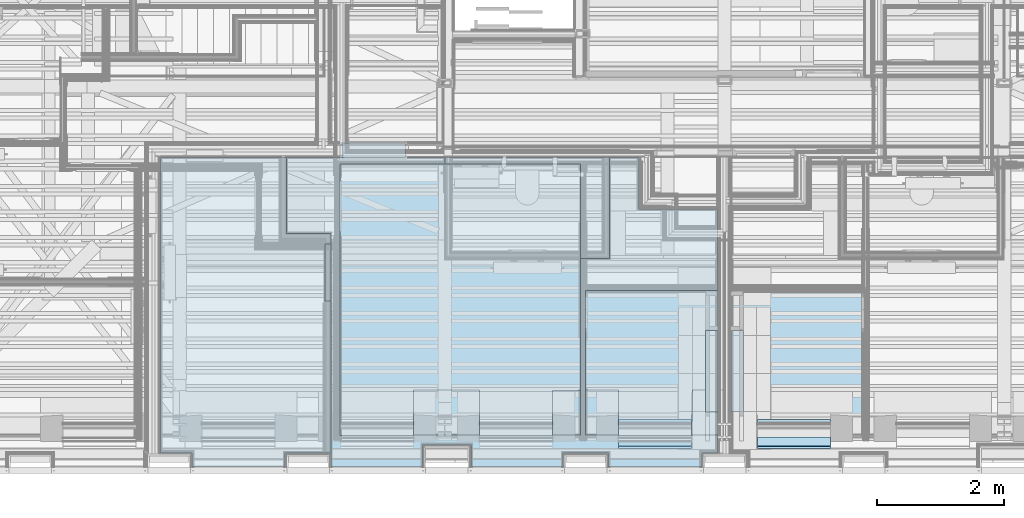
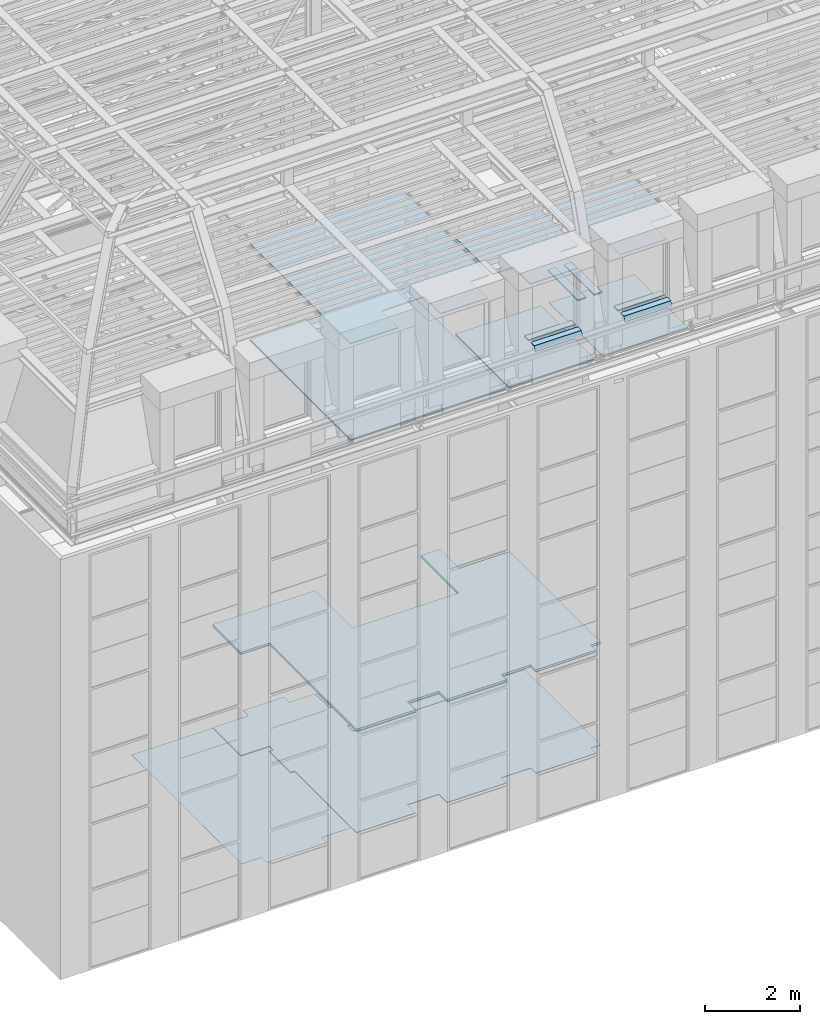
# One storey, part 84 of 183: 22 slabs.
"""IFC2X3 building model written with IfcOpenShell, lengths in metres."""

from ifc_helpers import new_model, entity, si_unit, converted_unit, derived_unit, money_unit, direction, frame, origin_with_axes, place, context, subcontext, project, spatial, faceted_brep, material, type_object, element, save


model = new_model("IFC2X3")

# Units and contexts
model_context = context("Model", 3, precision=1e-05, world=origin_with_axes(), true_north=direction((0.0, 1.0)))
body_context = subcontext(model_context, "Body", "Model", "MODEL_VIEW", scale=1.0)
ifc_project = project(units=[si_unit("LENGTHUNIT", "METRE"), si_unit("AREAUNIT", "SQUARE_METRE"), si_unit("VOLUMEUNIT", "CUBIC_METRE"), si_unit("ABSORBEDDOSEUNIT", "GRAY"), si_unit("AMOUNTOFSUBSTANCEUNIT", "MOLE"), si_unit("DOSEEQUIVALENTUNIT", "SIEVERT"), si_unit("ELECTRICCAPACITANCEUNIT", "FARAD"), si_unit("ELECTRICCHARGEUNIT", "COULOMB"), si_unit("ELECTRICCONDUCTANCEUNIT", "SIEMENS"), si_unit("ELECTRICCURRENTUNIT", "AMPERE"), si_unit("ELECTRICRESISTANCEUNIT", "OHM"), si_unit("ELECTRICVOLTAGEUNIT", "VOLT"), si_unit("ENERGYUNIT", "JOULE"), si_unit("FORCEUNIT", "NEWTON"), si_unit("FREQUENCYUNIT", "HERTZ"), si_unit("ILLUMINANCEUNIT", "LUX"), si_unit("INDUCTANCEUNIT", "HENRY"), si_unit("LUMINOUSFLUXUNIT", "LUMEN"), si_unit("LUMINOUSINTENSITYUNIT", "CANDELA"), si_unit("MAGNETICFLUXDENSITYUNIT", "TESLA"), si_unit("MAGNETICFLUXUNIT", "WEBER"), si_unit("MASSUNIT", "GRAM"), converted_unit("PLANEANGLEUNIT", "degree", entity("IfcReal", 0.0174532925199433), si_unit("PLANEANGLEUNIT", "RADIAN"), dimensions=[0, 0, 0, 0, 0, 0, 0]), si_unit("POWERUNIT", "WATT"), si_unit("PRESSUREUNIT", "PASCAL"), si_unit("RADIOACTIVITYUNIT", "BECQUEREL"), si_unit("SOLIDANGLEUNIT", "STERADIAN"), si_unit("THERMODYNAMICTEMPERATUREUNIT", "KELVIN"), si_unit("TIMEUNIT", "SECOND"), derived_unit("ACCELERATIONUNIT", [(si_unit("LENGTHUNIT", "METRE"), 1), (si_unit("TIMEUNIT", "SECOND"), -2)]), derived_unit("ANGULARVELOCITYUNIT", [(converted_unit("PLANEANGLEUNIT", "degree", entity("IfcReal", 0.0174532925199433), si_unit("PLANEANGLEUNIT", "RADIAN"), dimensions=[0, 0, 0, 0, 0, 0, 0]), 1), (si_unit("TIMEUNIT", "SECOND"), -1)]), derived_unit("CURVATUREUNIT", [(converted_unit("PLANEANGLEUNIT", "degree", entity("IfcReal", 0.0174532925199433), si_unit("PLANEANGLEUNIT", "RADIAN"), dimensions=[0, 0, 0, 0, 0, 0, 0]), 1), (si_unit("LENGTHUNIT", "METRE"), -1)]), derived_unit("DYNAMICVISCOSITYUNIT", [(si_unit("PRESSUREUNIT", "PASCAL"), 1), (si_unit("TIMEUNIT", "SECOND"), 1)]), derived_unit("HEATFLUXDENSITYUNIT", [(si_unit("POWERUNIT", "WATT"), 1), (si_unit("LENGTHUNIT", "METRE"), -2)]), derived_unit("HEATINGVALUEUNIT", [(si_unit("ENERGYUNIT", "JOULE"), 1), (si_unit("MASSUNIT", "GRAM"), -1)]), derived_unit("INTEGERCOUNTRATEUNIT", [(si_unit("TIMEUNIT", "SECOND"), -1)]), derived_unit("IONCONCENTRATIONUNIT", [(si_unit("MASSUNIT", "GRAM"), 1), (si_unit("VOLUMEUNIT", "CUBIC_METRE"), -1)]), derived_unit("ISOTHERMALMOISTURECAPACITYUNIT", [(si_unit("VOLUMEUNIT", "CUBIC_METRE"), 1), (si_unit("MASSUNIT", "GRAM"), -1)]), derived_unit("KINEMATICVISCOSITYUNIT", [(si_unit("AREAUNIT", "SQUARE_METRE"), 1), (si_unit("TIMEUNIT", "SECOND"), -1)]), derived_unit("LINEARFORCEUNIT", [(si_unit("FORCEUNIT", "NEWTON"), 1), (si_unit("LENGTHUNIT", "METRE"), -1)]), derived_unit("LINEARMOMENTUNIT", [(si_unit("FORCEUNIT", "NEWTON"), 1), (si_unit("LENGTHUNIT", "METRE"), -1)]), derived_unit("LINEARSTIFFNESSUNIT", [(si_unit("FORCEUNIT", "NEWTON"), 1), (si_unit("LENGTHUNIT", "METRE"), -1)]), derived_unit("LINEARVELOCITYUNIT", [(si_unit("LENGTHUNIT", "METRE"), 1), (si_unit("TIMEUNIT", "SECOND"), -1)]), derived_unit("LUMINOUSINTENSITYDISTRIBUTIONUNIT", [(si_unit("LUMINOUSINTENSITYUNIT", "CANDELA"), 1), (si_unit("LUMINOUSFLUXUNIT", "LUMEN"), -1)]), derived_unit("MASSDENSITYUNIT", [(si_unit("MASSUNIT", "GRAM"), 1), (si_unit("VOLUMEUNIT", "CUBIC_METRE"), -1)]), derived_unit("MASSFLOWRATEUNIT", [(si_unit("MASSUNIT", "GRAM"), 1), (si_unit("TIMEUNIT", "SECOND"), -1)]), derived_unit("MASSPERLENGTHUNIT", [(si_unit("MASSUNIT", "GRAM"), 1), (si_unit("LENGTHUNIT", "METRE"), -1)]), derived_unit("MODULUSOFELASTICITYUNIT", [(si_unit("FORCEUNIT", "NEWTON"), 1), (si_unit("AREAUNIT", "SQUARE_METRE"), -1)]), derived_unit("MODULUSOFLINEARSUBGRADEREACTIONUNIT", [(si_unit("FORCEUNIT", "NEWTON"), 1), (si_unit("LENGTHUNIT", "METRE"), -2)]), derived_unit("MODULUSOFROTATIONALSUBGRADEREACTIONUNIT", [(si_unit("FORCEUNIT", "NEWTON"), 1), (si_unit("LENGTHUNIT", "METRE"), 1)]), derived_unit("MODULUSOFSUBGRADEREACTIONUNIT", [(si_unit("FORCEUNIT", "NEWTON"), 1), (si_unit("VOLUMEUNIT", "CUBIC_METRE"), -1)]), derived_unit("MOISTUREDIFFUSIVITYUNIT", [(si_unit("VOLUMEUNIT", "CUBIC_METRE"), 1), (si_unit("TIMEUNIT", "SECOND"), -1)]), derived_unit("MOLECULARWEIGHTUNIT", [(si_unit("MASSUNIT", "GRAM"), 1), (si_unit("AMOUNTOFSUBSTANCEUNIT", "MOLE"), -1)]), derived_unit("PLANARFORCEUNIT", [(si_unit("FORCEUNIT", "NEWTON"), 1), (si_unit("LENGTHUNIT", "METRE"), -2)]), derived_unit("ROTATIONALFREQUENCYUNIT", [(si_unit("TIMEUNIT", "SECOND"), -1)]), derived_unit("ROTATIONALMASSUNIT", [(si_unit("MASSUNIT", "GRAM"), 1), (si_unit("LENGTHUNIT", "METRE"), 2)]), derived_unit("ROTATIONALSTIFFNESSUNIT", [(si_unit("FORCEUNIT", "NEWTON"), 1), (si_unit("LENGTHUNIT", "METRE"), 1), (converted_unit("PLANEANGLEUNIT", "degree", entity("IfcReal", 0.0174532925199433), si_unit("PLANEANGLEUNIT", "RADIAN"), dimensions=[0, 0, 0, 0, 0, 0, 0]), -1)]), derived_unit("SECTIONAREAINTEGRALUNIT", [(si_unit("LENGTHUNIT", "METRE"), 5)]), derived_unit("SECTIONMODULUSUNIT", [(si_unit("LENGTHUNIT", "METRE"), 3)]), derived_unit("SHEARMODULUSUNIT", [(si_unit("FORCEUNIT", "NEWTON"), 1), (si_unit("AREAUNIT", "SQUARE_METRE"), -1)]), derived_unit("SOUNDPOWERUNIT", [(si_unit("ENERGYUNIT", "JOULE"), 1), (si_unit("TIMEUNIT", "SECOND"), -1)]), derived_unit("SPECIFICHEATCAPACITYUNIT", [(si_unit("FORCEUNIT", "NEWTON"), 1), (si_unit("MASSUNIT", "GRAM"), -1), (si_unit("THERMODYNAMICTEMPERATUREUNIT", "KELVIN"), -1)]), derived_unit("TEMPERATUREGRADIENTUNIT", [(si_unit("THERMODYNAMICTEMPERATUREUNIT", "KELVIN"), 1), (si_unit("LENGTHUNIT", "METRE"), -1)]), derived_unit("THERMALADMITTANCEUNIT", [(si_unit("POWERUNIT", "WATT"), 1), (si_unit("AREAUNIT", "SQUARE_METRE"), -1), (si_unit("THERMODYNAMICTEMPERATUREUNIT", "KELVIN"), -1)]), derived_unit("THERMALCONDUCTANCEUNIT", [(si_unit("POWERUNIT", "WATT"), 1), (si_unit("LENGTHUNIT", "METRE"), -1), (si_unit("THERMODYNAMICTEMPERATUREUNIT", "KELVIN"), -1)]), derived_unit("THERMALEXPANSIONCOEFFICIENTUNIT", [(si_unit("THERMODYNAMICTEMPERATUREUNIT", "KELVIN"), -1)]), derived_unit("THERMALRESISTANCEUNIT", [(si_unit("AREAUNIT", "SQUARE_METRE"), 1), (si_unit("POWERUNIT", "WATT"), -1)]), derived_unit("THERMALTRANSMITTANCEUNIT", [(si_unit("POWERUNIT", "WATT"), 1), (si_unit("AREAUNIT", "SQUARE_METRE"), -1), (si_unit("THERMODYNAMICTEMPERATUREUNIT", "KELVIN"), -1)]), derived_unit("TORQUEUNIT", [(si_unit("FORCEUNIT", "NEWTON"), 1), (si_unit("LENGTHUNIT", "METRE"), 1)]), derived_unit("VAPORPERMEABILITYUNIT", [(si_unit("MASSUNIT", "GRAM"), 1), (si_unit("TIMEUNIT", "SECOND"), -1)]), derived_unit("VOLUMETRICFLOWRATEUNIT", [(si_unit("VOLUMEUNIT", "CUBIC_METRE"), 1), (si_unit("TIMEUNIT", "SECOND"), -1)]), derived_unit("WARPINGCONSTANTUNIT", [(si_unit("LENGTHUNIT", "METRE"), 6)]), derived_unit("WARPINGMOMENTUNIT", [(si_unit("FORCEUNIT", "NEWTON"), 1), (si_unit("LENGTHUNIT", "METRE"), 2)]), money_unit("GBP")], contexts=[model_context])

# Site, building, storey
site_placement = place(None, origin_with_axes())
site = spatial("IfcSite", under=ifc_project, at=site_placement, Name="Site", CompositionType="ELEMENT")
building_placement = place(site_placement, origin_with_axes())
building = spatial("IfcBuilding", under=site, at=building_placement, Name="Building01", CompositionType="ELEMENT")
storey_placement = place(building_placement, frame((0.0, 0.0, 5.15), z_axis=(0.0, 0.0, 1.0), x_axis=(1.0, 0.0, 0.0)))
storey = spatial("IfcBuildingStorey", under=building, at=storey_placement, Name="1F", CompositionType="ELEMENT", Elevation=5.15)

# Slabs
ifc_material_1 = material(Name="A_BSUK_ExpandedPolystyreneBoards")
slab_type_1 = type_object("IfcSlabType", Name="A-FloorsSlabs A_BSUK_Slabs", PredefinedType="FLOOR")
placement = place(storey_placement, frame((0.0, 0.0, -5.15), z_axis=(0.0, 0.0, 1.0), x_axis=(1.0, 0.0, 0.0)))
element("IfcSlab", 1, at=placement, inside=storey, type_object=slab_type_1, material=ifc_material_1, Name="A-FloorsSlabs A_BSUK_Slabs", ObjectType="CompoundSlabLeaf", context=body_context, shape_type="Brep", body=[
    faceted_brep([(12.15, 4.98, 5.15), (12.15, 4.98, 5.153), (12.15, 4.164428, 5.153), (12.15, 4.164428, 5.15), (9.0, 4.98, 5.15), (9.0, 4.98, 5.153), (8.4725, 4.98, 5.15), (8.4725, 4.98, 5.153), (8.4725, 5.205, 5.15), (8.4725, 5.205, 5.153), (7.4725, 5.205, 5.15), (7.4725, 5.205, 5.153), (7.4725, 4.98, 5.15), (7.4725, 4.98, 5.153), (4.61, 4.98, 5.15), (4.61, 4.98, 5.153), (4.61, 0.318, 5.15), (4.61, 0.318, 5.153), (5.105, 0.318, 5.15), (5.105, 0.318, 5.153), (5.105, 0.1, 5.15), (5.105, 0.1, 5.153), (6.575, 0.1, 5.15), (6.575, 0.1, 5.153), (6.575, 0.318, 5.15), (6.575, 0.318, 5.153), (7.295, 0.318, 5.15), (7.295, 0.318, 5.153), (7.295, 0.1, 5.15), (7.295, 0.1, 5.153), (8.742, 0.1, 5.15), (8.742, 0.1, 5.153), (8.742, 0.448, 5.15), (8.742, 0.448, 5.153), (9.508, 0.448, 5.15), (9.508, 0.448, 5.153), (9.508, 0.1, 5.15), (9.508, 0.1, 5.153), (10.955, 0.1, 5.15), (10.955, 0.1, 5.153), (10.955, 0.318, 5.15), (10.955, 0.318, 5.153), (11.675, 0.318, 5.15), (11.675, 0.318, 5.153), (11.675, 0.1, 5.15), (11.675, 0.1, 5.153), (13.145, 0.1, 5.15), (13.145, 0.1, 5.153), (13.145, 0.318, 5.15), (13.145, 0.318, 5.153), (13.3875, 0.318, 5.15), (13.3875, 0.318, 5.153), (13.3875, 4.164428, 5.15), (13.3875, 4.164428, 5.153)], [[[0, 1, 2, 3]], [[4, 5, 1, 0]], [[6, 7, 5, 4]], [[8, 9, 7, 6]], [[10, 11, 9, 8]], [[12, 13, 11, 10]], [[14, 15, 13, 12]], [[16, 17, 15, 14]], [[18, 19, 17, 16]], [[20, 21, 19, 18]], [[22, 23, 21, 20]], [[24, 25, 23, 22]], [[26, 27, 25, 24]], [[28, 29, 27, 26]], [[30, 31, 29, 28]], [[32, 33, 31, 30]], [[34, 35, 33, 32]], [[36, 37, 35, 34]], [[38, 39, 37, 36]], [[40, 41, 39, 38]], [[42, 43, 41, 40]], [[44, 45, 43, 42]], [[46, 47, 45, 44]], [[48, 49, 47, 46]], [[50, 51, 49, 48]], [[52, 53, 51, 50]], [[3, 2, 53, 52]], [[1, 5, 7, 9, 11, 13, 15, 17, 19, 21, 23, 25, 27, 29, 31, 33, 35, 37, 39, 41, 43, 45, 47, 49, 51, 53, 2]], [[3, 52, 50, 48, 46, 44, 42, 40, 38, 36, 34, 32, 30, 28, 26, 24, 22, 20, 18, 16, 14, 12, 10, 8, 6, 4, 0]]]),
])
ifc_material_2 = material(Name="A_BSUK_Parquet_Floor")
element("IfcSlab", 2, at=placement, inside=storey, type_object=slab_type_1, material=ifc_material_2, Name="A-FloorsSlabs A_BSUK_Slabs", ObjectType="CompoundSlabLeaf", context=body_context, shape_type="Brep", body=[
    faceted_brep([(8.4725, 5.205, 5.153), (8.4725, 5.205, 5.165), (8.4725, 4.98, 5.165), (8.4725, 4.98, 5.153), (7.4725, 5.205, 5.153), (7.4725, 5.205, 5.165), (7.4725, 4.98, 5.153), (7.4725, 4.98, 5.165), (6.595, 4.98, 5.153), (6.595, 4.98, 5.165), (6.595, 3.78, 5.153), (6.595, 3.78, 5.165), (7.295, 3.78, 5.153), (7.295, 3.78, 5.165), (7.295, 3.616, 5.153), (7.295, 3.616, 5.165), (7.2, 3.616, 5.153), (7.2, 3.616, 5.165), (7.2, 2.716, 5.153), (7.2, 2.716, 5.165), (7.295, 2.716, 5.153), (7.295, 2.716, 5.165), (7.295, 0.1, 5.153), (7.295, 0.1, 5.165), (8.742, 0.1, 5.153), (8.742, 0.1, 5.165), (8.742, 0.448, 5.153), (8.742, 0.448, 5.165), (9.508, 0.448, 5.153), (9.508, 0.448, 5.165), (9.508, 0.1, 5.153), (9.508, 0.1, 5.165), (10.955, 0.1, 5.153), (10.955, 0.1, 5.165), (10.955, 0.318, 5.153), (10.955, 0.318, 5.165), (11.675, 0.318, 5.153), (11.675, 0.318, 5.165), (11.675, 0.1, 5.153), (11.675, 0.1, 5.165), (13.145, 0.1, 5.153), (13.145, 0.1, 5.165), (13.145, 0.318, 5.153), (13.145, 0.318, 5.165), (13.3875, 0.318, 5.153), (13.3875, 0.318, 5.165), (13.3875, 4.164428, 5.153), (13.3875, 4.164428, 5.165), (12.15, 4.164428, 5.153), (12.15, 4.164428, 5.165), (12.15, 4.98, 5.153), (12.15, 4.98, 5.165), (11.687536, 4.98, 5.153), (11.687536, 4.98, 5.165), (11.687536, 3.385, 5.153), (11.687536, 3.385, 5.165), (9.097536, 3.385, 5.153), (9.097536, 3.385, 5.165), (9.097536, 3.613781, 5.153), (9.097536, 3.613781, 5.165), (9.192536, 3.613781, 5.153), (9.192536, 3.613781, 5.165), (9.192536, 4.363781, 5.153), (9.192536, 4.363781, 5.165), (9.097536, 4.363781, 5.153), (9.097536, 4.363781, 5.165), (9.097536, 4.98, 5.153), (9.097536, 4.98, 5.165)], [[[0, 1, 2, 3]], [[4, 5, 1, 0]], [[6, 7, 5, 4]], [[8, 9, 7, 6]], [[10, 11, 9, 8]], [[12, 13, 11, 10]], [[14, 15, 13, 12]], [[16, 17, 15, 14]], [[18, 19, 17, 16]], [[20, 21, 19, 18]], [[22, 23, 21, 20]], [[24, 25, 23, 22]], [[26, 27, 25, 24]], [[28, 29, 27, 26]], [[30, 31, 29, 28]], [[32, 33, 31, 30]], [[34, 35, 33, 32]], [[36, 37, 35, 34]], [[38, 39, 37, 36]], [[40, 41, 39, 38]], [[42, 43, 41, 40]], [[44, 45, 43, 42]], [[46, 47, 45, 44]], [[48, 49, 47, 46]], [[50, 51, 49, 48]], [[52, 53, 51, 50]], [[54, 55, 53, 52]], [[56, 57, 55, 54]], [[58, 59, 57, 56]], [[60, 61, 59, 58]], [[62, 63, 61, 60]], [[64, 65, 63, 62]], [[66, 67, 65, 64]], [[3, 2, 67, 66]], [[1, 5, 7, 9, 11, 13, 15, 17, 19, 21, 23, 25, 27, 29, 31, 33, 35, 37, 39, 41, 43, 45, 47, 49, 51, 53, 55, 57, 59, 61, 63, 65, 67, 2]], [[3, 66, 64, 62, 60, 58, 56, 54, 52, 50, 48, 46, 44, 42, 40, 38, 36, 34, 32, 30, 28, 26, 24, 22, 20, 18, 16, 14, 12, 10, 8, 6, 4, 0]]]),
])
ifc_material_3 = material(Name="A_BSUK_CeilingSoffitFinishes_Suspended")
element("IfcSlab", 3, at=placement, inside=storey, type_object=slab_type_1, material=ifc_material_3, Name="A-FloorsSlabs A_BSUK_Slabs", ObjectType="CompoundSlabLeaf", context=body_context, shape_type="Brep", body=[
    faceted_brep([(8.6725, 4.98, 7.765), (8.6725, 4.98, 7.78), (9.097536, 4.98, 7.78), (9.097536, 4.98, 7.765), (7.6725, 4.98, 7.765), (7.6725, 4.98, 7.78), (6.595, 4.98, 7.765), (6.595, 4.98, 7.78), (6.595, 3.78, 7.765), (6.595, 3.78, 7.78), (7.295, 3.78, 7.765), (7.295, 3.78, 7.78), (7.295, 3.151781, 7.765), (7.295, 3.151781, 7.78), (7.295, 0.1, 7.765), (7.295, 0.1, 7.78), (8.742, 0.1, 7.765), (8.742, 0.1, 7.78), (8.742, 0.448, 7.765), (8.742, 0.448, 7.78), (9.508, 0.448, 7.765), (9.508, 0.448, 7.78), (9.508, 0.1, 7.765), (9.508, 0.1, 7.78), (10.955, 0.1, 7.765), (10.955, 0.1, 7.78), (10.955, 0.318, 7.765), (10.955, 0.318, 7.78), (11.675, 0.318, 7.765), (11.675, 0.318, 7.78), (11.675, 0.1, 7.765), (11.675, 0.1, 7.78), (13.145, 0.1, 7.765), (13.145, 0.1, 7.78), (13.145, 0.318, 7.765), (13.145, 0.318, 7.78), (13.3875, 0.318, 7.765), (13.3875, 0.318, 7.78), (13.3875, 4.164428, 7.765), (13.3875, 4.164428, 7.78), (12.15, 4.164428, 7.765), (12.15, 4.164428, 7.78), (12.15, 4.98, 7.765), (12.15, 4.98, 7.78), (11.687536, 4.98, 7.765), (11.687536, 4.98, 7.78), (11.687536, 3.385, 7.765), (11.687536, 3.385, 7.78), (9.097536, 3.385, 7.765), (9.097536, 3.385, 7.78)], [[[0, 1, 2, 3]], [[4, 5, 1, 0]], [[6, 7, 5, 4]], [[8, 9, 7, 6]], [[10, 11, 9, 8]], [[12, 13, 11, 10]], [[14, 15, 13, 12]], [[16, 17, 15, 14]], [[18, 19, 17, 16]], [[20, 21, 19, 18]], [[22, 23, 21, 20]], [[24, 25, 23, 22]], [[26, 27, 25, 24]], [[28, 29, 27, 26]], [[30, 31, 29, 28]], [[32, 33, 31, 30]], [[34, 35, 33, 32]], [[36, 37, 35, 34]], [[38, 39, 37, 36]], [[40, 41, 39, 38]], [[42, 43, 41, 40]], [[44, 45, 43, 42]], [[46, 47, 45, 44]], [[48, 49, 47, 46]], [[3, 2, 49, 48]], [[1, 5, 7, 9, 11, 13, 15, 17, 19, 21, 23, 25, 27, 29, 31, 33, 35, 37, 39, 41, 43, 45, 47, 49, 2]], [[3, 48, 46, 44, 42, 40, 38, 36, 34, 32, 30, 28, 26, 24, 22, 20, 18, 16, 14, 12, 10, 8, 6, 4, 0]]]),
])
ifc_material_4 = material(Name="A_BSUK_Ceramic_WallTiles")
slab_4_placement = place(storey_placement, frame((13.799998, 2.249668, 11.155), z_axis=(0.0, 0.0, 1.0), x_axis=(1.0, 0.0, 0.0)))
element("IfcSlab", 4, at=slab_4_placement, inside=storey, type_object=slab_type_1, material=ifc_material_4, Name="A-FloorsSlabs A_BSUK_Slabs", ObjectType="A-FloorsSlabs A_BSUK_Slabs", context=body_context, shape_type="Brep", body=[
    faceted_brep([(-0.199998, 0.0, 0.0), (-0.199998, 0.0, 0.025), (0.0, 0.0, 0.025), (0.0, 0.0, 0.0), (0.0, -1.279046, 0.025), (0.0, -1.279046, 0.0), (-0.199998, -1.279046, 0.025), (-0.199998, -1.279046, 0.0)], [[[0, 1, 2, 3]], [[3, 2, 4, 5]], [[5, 4, 6, 7]], [[7, 6, 1, 0]], [[1, 6, 4, 2]], [[3, 5, 7, 0]]]),
])
slab_5_placement = place(storey_placement, frame((13.200002, 2.249668, 11.155), z_axis=(0.0, 0.0, 1.0), x_axis=(1.0, 0.0, 0.0)))
element("IfcSlab", 5, at=slab_5_placement, inside=storey, type_object=slab_type_1, material=ifc_material_4, Name="A-FloorsSlabs A_BSUK_Slabs", ObjectType="A-FloorsSlabs A_BSUK_Slabs", context=body_context, shape_type="Brep", body=[
    faceted_brep([(0.0, 0.0, 0.0), (0.0, 0.0, 0.025), (0.199998, 0.0, 0.025), (0.199998, 0.0, 0.0), (0.0, -1.279046, 0.0), (0.0, -1.279046, 0.025), (0.199998, -1.279046, 0.0), (0.199998, -1.279046, 0.025)], [[[0, 1, 2, 3]], [[4, 5, 1, 0]], [[6, 7, 5, 4]], [[3, 2, 7, 6]], [[1, 5, 7, 2]], [[3, 6, 4, 0]]]),
])
ifc_material_5 = material(Name="A_BSUK_Timber_Miscellaneous")
slab_6_placement = place(storey_placement, frame((12.980024, 0.575339, 10.78), z_axis=(0.0, 0.0, 1.0), x_axis=(-1.0, 0.0, 0.0)))
element("IfcSlab", 6, at=slab_6_placement, inside=storey, type_object=slab_type_1, material=ifc_material_5, Name="A-FloorsSlabs A_BSUK_Slabs", ObjectType="A-FloorsSlabs A_BSUK_Slabs", context=body_context, shape_type="Brep", body=[
    faceted_brep([(0.0, 0.0, 0.0), (1.15, 0.0, 0.0), (1.15, 0.0, 0.022498), (0.0, 0.0, 0.022498), (1.15, 0.142391, 0.017505), (0.0, 0.142391, 0.017505), (1.15, 0.148079, 0.0), (0.0, 0.148079, 0.0)], [[[0, 1, 2, 3]], [[3, 2, 4, 5]], [[5, 4, 6, 7]], [[7, 6, 1, 0]], [[1, 6, 4, 2]], [[3, 5, 7, 0]]]),
])
ifc_material_6 = material(Name="A_BSUK_Steel_Miscellaneous")
slab_7_placement = place(storey_placement, frame((12.980024, 0.575339, 10.802498), z_axis=(0.0, 0.0, 1.0), x_axis=(-1.0, 0.0, 0.0)))
element("IfcSlab", 7, at=slab_7_placement, inside=storey, type_object=slab_type_1, material=ifc_material_6, Name="A-FloorsSlabs A_BSUK_Slabs", ObjectType="A-FloorsSlabs A_BSUK_Slabs", context=body_context, shape_type="Brep", body=[
    faceted_brep([(0.0, 0.0, 0.0), (1.15, 0.0, 0.0), (1.15, 0.0, 0.007502), (0.0, 0.0, 0.007502), (1.15, 0.001, 0.007502), (0.0, 0.001, 0.007502), (1.15, 0.0025, 0.002414), (0.0, 0.0025, 0.002414), (1.15, 0.144228, -0.002556), (0.0, 0.144228, -0.002556), (1.15, 0.183199, -0.122498), (0.0, 0.183199, -0.122498), (1.15, 0.183199, -0.127498), (0.0, 0.183199, -0.127498), (1.15, 0.180699, -0.127498), (0.0, 0.180699, -0.127498), (1.15, 0.180699, -0.122894), (0.0, 0.180699, -0.122894), (1.15, 0.142391, -0.004993), (0.0, 0.142391, -0.004993)], [[[0, 1, 2, 3]], [[3, 2, 4, 5]], [[5, 4, 6, 7]], [[7, 6, 8, 9]], [[9, 8, 10, 11]], [[11, 10, 12, 13]], [[13, 12, 14, 15]], [[15, 14, 16, 17]], [[17, 16, 18, 19]], [[19, 18, 1, 0]], [[1, 18, 16, 14, 12, 10, 8, 6, 4, 2]], [[3, 5, 7, 9, 11, 13, 15, 17, 19, 0]]]),
])
slab_8_placement = place(storey_placement, frame((15.170024, 0.575339, 10.78), z_axis=(0.0, 0.0, 1.0), x_axis=(-1.0, 0.0, 0.0)))
element("IfcSlab", 8, at=slab_8_placement, inside=storey, type_object=slab_type_1, material=ifc_material_5, Name="A-FloorsSlabs A_BSUK_Slabs", ObjectType="A-FloorsSlabs A_BSUK_Slabs", context=body_context, shape_type="Brep", body=[
    faceted_brep([(0.0, 0.0, 0.0), (1.15, 0.0, 0.0), (1.15, 0.0, 0.022498), (0.0, 0.0, 0.022498), (1.15, 0.142391, 0.017505), (0.0, 0.142391, 0.017505), (1.15, 0.148079, 0.0), (0.0, 0.148079, 0.0)], [[[0, 1, 2, 3]], [[3, 2, 4, 5]], [[5, 4, 6, 7]], [[7, 6, 1, 0]], [[1, 6, 4, 2]], [[3, 5, 7, 0]]]),
])
slab_9_placement = place(storey_placement, frame((15.170024, 0.575339, 10.802498), z_axis=(0.0, 0.0, 1.0), x_axis=(-1.0, 0.0, 0.0)))
element("IfcSlab", 9, at=slab_9_placement, inside=storey, type_object=slab_type_1, material=ifc_material_6, Name="A-FloorsSlabs A_BSUK_Slabs", ObjectType="A-FloorsSlabs A_BSUK_Slabs", context=body_context, shape_type="Brep", body=[
    faceted_brep([(0.0, 0.0, 0.0), (1.15, 0.0, 0.0), (1.15, 0.0, 0.007502), (0.0, 0.0, 0.007502), (1.15, 0.001, 0.007502), (0.0, 0.001, 0.007502), (1.15, 0.0025, 0.002414), (0.0, 0.0025, 0.002414), (1.15, 0.144228, -0.002556), (0.0, 0.144228, -0.002556), (1.15, 0.183199, -0.122498), (0.0, 0.183199, -0.122498), (1.15, 0.183199, -0.127498), (0.0, 0.183199, -0.127498), (1.15, 0.180699, -0.127498), (0.0, 0.180699, -0.127498), (1.15, 0.180699, -0.122894), (0.0, 0.180699, -0.122894), (1.15, 0.142391, -0.004993), (0.0, 0.142391, -0.004993)], [[[0, 1, 2, 3]], [[3, 2, 4, 5]], [[5, 4, 6, 7]], [[7, 6, 8, 9]], [[9, 8, 10, 11]], [[11, 10, 12, 13]], [[13, 12, 14, 15]], [[15, 14, 16, 17]], [[17, 16, 18, 19]], [[19, 18, 1, 0]], [[1, 18, 16, 14, 12, 10, 8, 6, 4, 2]], [[3, 5, 7, 9, 11, 13, 15, 17, 19, 0]]]),
])
element("IfcSlab", 10, at=placement, inside=storey, type_object=slab_type_1, material=ifc_material_3, Name="A-FloorsSlabs A_BSUK_Slabs", ObjectType="CompoundSlabLeaf", context=body_context, shape_type="Brep", body=[
    faceted_brep([(7.439998, 4.88, 17.423), (7.439998, 4.88, 17.438), (11.23, 4.88, 17.438), (11.23, 4.88, 17.423), (7.439911, 0.599916, 17.423), (7.439911, 0.599916, 17.438), (8.599976, 0.599939, 17.423), (8.599976, 0.599939, 17.438), (8.599976, 1.312402, 17.423), (8.599976, 1.312402, 17.438), (9.640024, 1.312402, 17.423), (9.640024, 1.312402, 17.438), (9.640024, 0.599939, 17.423), (9.640024, 0.599939, 17.438), (10.790024, 0.599939, 17.423), (10.790024, 0.599939, 17.438), (10.790024, 1.31, 17.423), (10.790024, 1.31, 17.438), (11.23, 1.31, 17.423), (11.23, 1.31, 17.438)], [[[0, 1, 2, 3]], [[4, 5, 1, 0]], [[6, 7, 5, 4]], [[8, 9, 7, 6]], [[10, 11, 9, 8]], [[12, 13, 11, 10]], [[14, 15, 13, 12]], [[16, 17, 15, 14]], [[18, 19, 17, 16]], [[3, 2, 19, 18]], [[1, 5, 7, 9, 11, 13, 15, 17, 19, 2]], [[3, 18, 16, 14, 12, 10, 8, 6, 4, 0]]]),
])
element("IfcSlab", 11, at=placement, inside=storey, type_object=slab_type_1, material=ifc_material_3, Name="A-FloorsSlabs A_BSUK_Slabs", ObjectType="CompoundSlabLeaf", context=body_context, shape_type="Brep", body=[
    faceted_brep([(11.31, 1.312402, 17.423), (11.31, 1.312402, 17.438), (11.31, 2.884761, 17.438), (11.31, 2.884761, 17.423), (11.830024, 1.312402, 17.423), (11.830024, 1.312402, 17.438), (11.830024, 0.599939, 17.423), (11.830024, 0.599939, 17.438), (12.979976, 0.599939, 17.423), (12.979976, 0.599939, 17.438), (12.992194, 1.312402, 17.423), (12.992194, 1.312402, 17.438), (13.4, 1.312402, 17.423), (13.4, 1.312402, 17.438), (13.4, 2.884761, 17.423), (13.4, 2.884761, 17.438)], [[[0, 1, 2, 3]], [[4, 5, 1, 0]], [[6, 7, 5, 4]], [[8, 9, 7, 6]], [[10, 11, 9, 8]], [[12, 13, 11, 10]], [[14, 15, 13, 12]], [[3, 2, 15, 14]], [[1, 5, 7, 9, 11, 13, 15, 2]], [[3, 14, 12, 10, 8, 6, 4, 0]]]),
])
element("IfcSlab", 12, at=placement, inside=storey, type_object=slab_type_1, material=ifc_material_3, Name="A-FloorsSlabs A_BSUK_Slabs", ObjectType="CompoundSlabLeaf", context=body_context, shape_type="Brep", body=[
    faceted_brep([(13.6, 1.313291, 17.423), (13.6, 1.313291, 17.438), (13.6, 2.869761, 17.438), (13.6, 2.869761, 17.423), (14.020024, 1.313291, 17.423), (14.020024, 1.313291, 17.438), (14.020024, 0.599939, 17.423), (14.020024, 0.599939, 17.438), (15.170024, 0.599939, 17.423), (15.170024, 0.599939, 17.438), (15.170024, 1.312402, 17.423), (15.170024, 1.312402, 17.438), (15.69, 1.312402, 17.423), (15.69, 1.312402, 17.438), (15.69, 2.869761, 17.423), (15.69, 2.869761, 17.438)], [[[0, 1, 2, 3]], [[4, 5, 1, 0]], [[6, 7, 5, 4]], [[8, 9, 7, 6]], [[10, 11, 9, 8]], [[12, 13, 11, 10]], [[14, 15, 13, 12]], [[3, 2, 15, 14]], [[1, 5, 7, 9, 11, 13, 15, 2]], [[3, 14, 12, 10, 8, 6, 4, 0]]]),
])
element("IfcSlab", 13, at=placement, inside=storey, type_object=slab_type_1, material=ifc_material_1, Name="A-FloorsSlabs A_BSUK_Slabs", ObjectType="CompoundSlabLeaf", context=body_context, shape_type="Brep", body=[
    faceted_brep([(7.44, 4.88, 14.92), (7.44, 4.88, 14.952), (11.23, 4.88, 14.952), (11.23, 4.88, 14.92), (7.439911, 0.599916, 14.92), (7.439911, 0.599916, 14.952), (8.599976, 0.6038, 14.92), (8.599976, 0.6038, 14.952), (9.640024, 0.6038, 14.92), (9.640024, 0.6038, 14.952), (10.790024, 0.6038, 14.92), (10.790024, 0.6038, 14.952), (11.23, 0.6038, 14.92), (11.23, 0.6038, 14.952)], [[[0, 1, 2, 3]], [[4, 5, 1, 0]], [[6, 7, 5, 4]], [[8, 9, 7, 6]], [[10, 11, 9, 8]], [[12, 13, 11, 10]], [[3, 2, 13, 12]], [[1, 5, 7, 9, 11, 13, 2]], [[3, 12, 10, 8, 6, 4, 0]]]),
])
element("IfcSlab", 14, at=placement, inside=storey, type_object=slab_type_1, material=ifc_material_1, Name="A-FloorsSlabs A_BSUK_Slabs", ObjectType="CompoundSlabLeaf", context=body_context, shape_type="Brep", body=[
    faceted_brep([(11.31, 0.6038, 14.92), (11.31, 0.6038, 14.952), (11.31, 2.869761, 14.952), (11.31, 2.869761, 14.92), (11.830024, 0.6038, 14.92), (11.830024, 0.6038, 14.952), (13.4, 0.6038, 14.92), (13.4, 0.6038, 14.952), (13.4, 2.869761, 14.92), (13.4, 2.869761, 14.952)], [[[0, 1, 2, 3]], [[4, 5, 1, 0]], [[6, 7, 5, 4]], [[8, 9, 7, 6]], [[3, 2, 9, 8]], [[1, 5, 7, 9, 2]], [[3, 8, 6, 4, 0]]]),
])
element("IfcSlab", 15, at=placement, inside=storey, type_object=slab_type_1, material=ifc_material_5, Name="A-FloorsSlabs A_BSUK_Slabs", ObjectType="CompoundSlabLeaf", context=body_context, shape_type="Brep", body=[
    faceted_brep([(12.980024, 0.849939, 15.93), (12.980024, 0.849939, 15.955), (12.980024, 0.675339, 15.955), (12.980024, 0.675339, 15.93), (11.830024, 0.849939, 15.93), (11.830024, 0.849939, 15.955), (11.830025, 0.675339, 15.93), (11.830025, 0.675339, 15.955)], [[[0, 1, 2, 3]], [[4, 5, 1, 0]], [[6, 7, 5, 4]], [[3, 2, 7, 6]], [[1, 5, 7, 2]], [[3, 6, 4, 0]]]),
])
element("IfcSlab", 16, at=placement, inside=storey, type_object=slab_type_1, material=ifc_material_5, Name="A-FloorsSlabs A_BSUK_Slabs", ObjectType="CompoundSlabLeaf", context=body_context, shape_type="Brep", body=[
    faceted_brep([(15.170024, 0.849939, 15.93), (15.170024, 0.849939, 15.955), (15.170024, 0.675339, 15.955), (15.170024, 0.675339, 15.93), (14.020024, 0.849939, 15.93), (14.020024, 0.849939, 15.955), (14.020025, 0.675339, 15.93), (14.020025, 0.675339, 15.955)], [[[0, 1, 2, 3]], [[4, 5, 1, 0]], [[6, 7, 5, 4]], [[3, 2, 7, 6]], [[1, 5, 7, 2]], [[3, 6, 4, 0]]]),
])
element("IfcSlab", 17, at=placement, inside=storey, type_object=slab_type_1, material=ifc_material_3, Name="A-FloorsSlabs A_BSUK_Slabs", ObjectType="CompoundSlabLeaf", context=body_context, shape_type="Brep", body=[
    faceted_brep([(7.439998, 4.88, 17.438), (7.439998, 4.88, 17.453), (11.23, 4.88, 17.453), (11.23, 4.88, 17.438), (7.439911, 0.599916, 17.438), (7.439911, 0.599916, 17.453), (8.599976, 0.599939, 17.438), (8.599976, 0.599939, 17.453), (8.599976, 1.312402, 17.438), (8.599976, 1.312402, 17.453), (9.640024, 1.312402, 17.438), (9.640024, 1.312402, 17.453), (9.640024, 0.599939, 17.438), (9.640024, 0.599939, 17.453), (10.790024, 0.599939, 17.438), (10.790024, 0.599939, 17.453), (10.790024, 1.31, 17.438), (10.790024, 1.31, 17.453), (11.23, 1.31, 17.438), (11.23, 1.31, 17.453)], [[[0, 1, 2, 3]], [[4, 5, 1, 0]], [[6, 7, 5, 4]], [[8, 9, 7, 6]], [[10, 11, 9, 8]], [[12, 13, 11, 10]], [[14, 15, 13, 12]], [[16, 17, 15, 14]], [[18, 19, 17, 16]], [[3, 2, 19, 18]], [[1, 5, 7, 9, 11, 13, 15, 17, 19, 2]], [[3, 18, 16, 14, 12, 10, 8, 6, 4, 0]]]),
])
element("IfcSlab", 18, at=placement, inside=storey, type_object=slab_type_1, material=ifc_material_3, Name="A-FloorsSlabs A_BSUK_Slabs", ObjectType="CompoundSlabLeaf", context=body_context, shape_type="Brep", body=[
    faceted_brep([(11.31, 1.312402, 17.438), (11.31, 1.312402, 17.453), (11.31, 2.884761, 17.453), (11.31, 2.884761, 17.438), (11.830024, 1.312402, 17.438), (11.830024, 1.312402, 17.453), (11.830024, 0.599939, 17.438), (11.830024, 0.599939, 17.453), (12.979976, 0.599939, 17.438), (12.979976, 0.599939, 17.453), (12.992194, 1.312402, 17.438), (12.992194, 1.312402, 17.453), (13.4, 1.312402, 17.438), (13.4, 1.312402, 17.453), (13.4, 2.884761, 17.438), (13.4, 2.884761, 17.453)], [[[0, 1, 2, 3]], [[4, 5, 1, 0]], [[6, 7, 5, 4]], [[8, 9, 7, 6]], [[10, 11, 9, 8]], [[12, 13, 11, 10]], [[14, 15, 13, 12]], [[3, 2, 15, 14]], [[1, 5, 7, 9, 11, 13, 15, 2]], [[3, 14, 12, 10, 8, 6, 4, 0]]]),
])
ifc_material_7 = material(Name="A_BSUK_Ceramic_FloorTiles")
slab_type_2 = type_object("IfcSlabType", Name="A-Finishes A_BSUK_Ceramic_FloorTiles", PredefinedType="FLOOR")
element("IfcSlab", 19, at=placement, inside=storey, type_object=slab_type_2, material=ifc_material_7, Name="A-Finishes A_BSUK_Ceramic_FloorTiles", ObjectType="CompoundSlabLeaf", context=body_context, shape_type="Brep", body=[
    faceted_brep([(11.31, 0.6038, 14.952), (11.31, 0.6038, 14.964), (11.31, 2.869761, 14.964), (11.31, 2.869761, 14.952), (11.830024, 0.6038, 14.952), (11.830024, 0.6038, 14.964), (13.4, 0.6038, 14.952), (13.4, 0.6038, 14.964), (13.4, 2.869761, 14.952), (13.4, 2.869761, 14.964)], [[[0, 1, 2, 3]], [[4, 5, 1, 0]], [[6, 7, 5, 4]], [[8, 9, 7, 6]], [[3, 2, 9, 8]], [[1, 5, 7, 9, 2]], [[3, 8, 6, 4, 0]]]),
])
element("IfcSlab", 20, at=placement, inside=storey, type_object=slab_type_2, material=ifc_material_7, Name="A-Finishes A_BSUK_Ceramic_FloorTiles", ObjectType="CompoundSlabLeaf", context=body_context, shape_type="Brep", body=[
    faceted_brep([(13.6, 0.6038, 14.952), (13.6, 0.6038, 14.964), (13.6, 2.869761, 14.964), (13.6, 2.869761, 14.952), (14.020024, 0.6038, 14.952), (14.020024, 0.6038, 14.964), (15.170024, 0.6038, 14.952), (15.170024, 0.6038, 14.964), (15.69, 0.6038, 14.952), (15.69, 0.6038, 14.964), (15.69, 2.869761, 14.952), (15.69, 2.869761, 14.964)], [[[0, 1, 2, 3]], [[4, 5, 1, 0]], [[6, 7, 5, 4]], [[8, 9, 7, 6]], [[10, 11, 9, 8]], [[3, 2, 11, 10]], [[1, 5, 7, 9, 11, 2]], [[3, 10, 8, 6, 4, 0]]]),
])
slab_type_3 = type_object("IfcSlabType", Name="A-FloorsSlabs A_BSUK_ExpandedPolystyreneBoards", PredefinedType="FLOOR")
element("IfcSlab", 21, at=placement, inside=storey, type_object=slab_type_3, material=ifc_material_1, Name="A-FloorsSlabs A_BSUK_ExpandedPolystyreneBoards", ObjectType="CompoundSlabLeaf", context=body_context, shape_type="Brep", body=[
    faceted_brep([(8.6725, 4.98, 7.78), (8.6725, 4.98, 7.83), (9.097536, 4.98, 7.83), (9.097536, 4.98, 7.78), (7.6725, 4.98, 7.78), (7.6725, 4.98, 7.83), (6.595, 4.98, 7.78), (6.595, 4.98, 7.83), (6.595, 3.78, 7.78), (6.595, 3.78, 7.83), (7.295, 3.78, 7.78), (7.295, 3.78, 7.83), (7.295, 3.151781, 7.78), (7.295, 3.151781, 7.83), (7.295, 0.1, 7.78), (7.295, 0.1, 7.83), (8.742, 0.1, 7.78), (8.742, 0.1, 7.83), (8.742, 0.448, 7.78), (8.742, 0.448, 7.83), (9.508, 0.448, 7.78), (9.508, 0.448, 7.83), (9.508, 0.1, 7.78), (9.508, 0.1, 7.83), (10.955, 0.1, 7.78), (10.955, 0.1, 7.83), (10.955, 0.318, 7.78), (10.955, 0.318, 7.83), (11.675, 0.318, 7.78), (11.675, 0.318, 7.83), (11.675, 0.1, 7.78), (11.675, 0.1, 7.83), (13.145, 0.1, 7.78), (13.145, 0.1, 7.83), (13.145, 0.318, 7.78), (13.145, 0.318, 7.83), (13.3875, 0.318, 7.78), (13.3875, 0.318, 7.83), (13.3875, 4.164428, 7.78), (13.3875, 4.164428, 7.83), (12.15, 4.164428, 7.78), (12.15, 4.164428, 7.83), (12.15, 4.98, 7.78), (12.15, 4.98, 7.83), (11.687536, 4.98, 7.78), (11.687536, 4.98, 7.83), (11.687536, 3.385, 7.78), (11.687536, 3.385, 7.83), (9.097536, 3.385, 7.78), (9.097536, 3.385, 7.83)], [[[0, 1, 2, 3]], [[4, 5, 1, 0]], [[6, 7, 5, 4]], [[8, 9, 7, 6]], [[10, 11, 9, 8]], [[12, 13, 11, 10]], [[14, 15, 13, 12]], [[16, 17, 15, 14]], [[18, 19, 17, 16]], [[20, 21, 19, 18]], [[22, 23, 21, 20]], [[24, 25, 23, 22]], [[26, 27, 25, 24]], [[28, 29, 27, 26]], [[30, 31, 29, 28]], [[32, 33, 31, 30]], [[34, 35, 33, 32]], [[36, 37, 35, 34]], [[38, 39, 37, 36]], [[40, 41, 39, 38]], [[42, 43, 41, 40]], [[44, 45, 43, 42]], [[46, 47, 45, 44]], [[48, 49, 47, 46]], [[3, 2, 49, 48]], [[1, 5, 7, 9, 11, 13, 15, 17, 19, 21, 23, 25, 27, 29, 31, 33, 35, 37, 39, 41, 43, 45, 47, 49, 2]], [[3, 48, 46, 44, 42, 40, 38, 36, 34, 32, 30, 28, 26, 24, 22, 20, 18, 16, 14, 12, 10, 8, 6, 4, 0]]]),
])
ifc_material_8 = material(Name="A_BSUK_Carpet-Pile")
slab_type_4 = type_object("IfcSlabType", Name="A-Finishes A_BSUK_Carpet-Pile", PredefinedType="FLOOR")
element("IfcSlab", 22, at=placement, inside=storey, type_object=slab_type_4, material=ifc_material_8, Name="A-Finishes A_BSUK_Carpet-Pile", ObjectType="CompoundSlabLeaf", context=body_context, shape_type="Brep", body=[
    faceted_brep([(7.44, 4.88, 14.952), (7.44, 4.88, 14.964), (11.23, 4.88, 14.964), (11.23, 4.88, 14.952), (7.439911, 0.599916, 14.952), (7.439911, 0.599916, 14.964), (8.599976, 0.6038, 14.952), (8.599976, 0.6038, 14.964), (9.640024, 0.6038, 14.952), (9.640024, 0.6038, 14.964), (10.790024, 0.6038, 14.952), (10.790024, 0.6038, 14.964), (11.23, 0.6038, 14.952), (11.23, 0.6038, 14.964)], [[[0, 1, 2, 3]], [[4, 5, 1, 0]], [[6, 7, 5, 4]], [[8, 9, 7, 6]], [[10, 11, 9, 8]], [[12, 13, 11, 10]], [[3, 2, 13, 12]], [[1, 5, 7, 9, 11, 13, 2]], [[3, 12, 10, 8, 6, 4, 0]]]),
])

save(model, "model.ifc")
